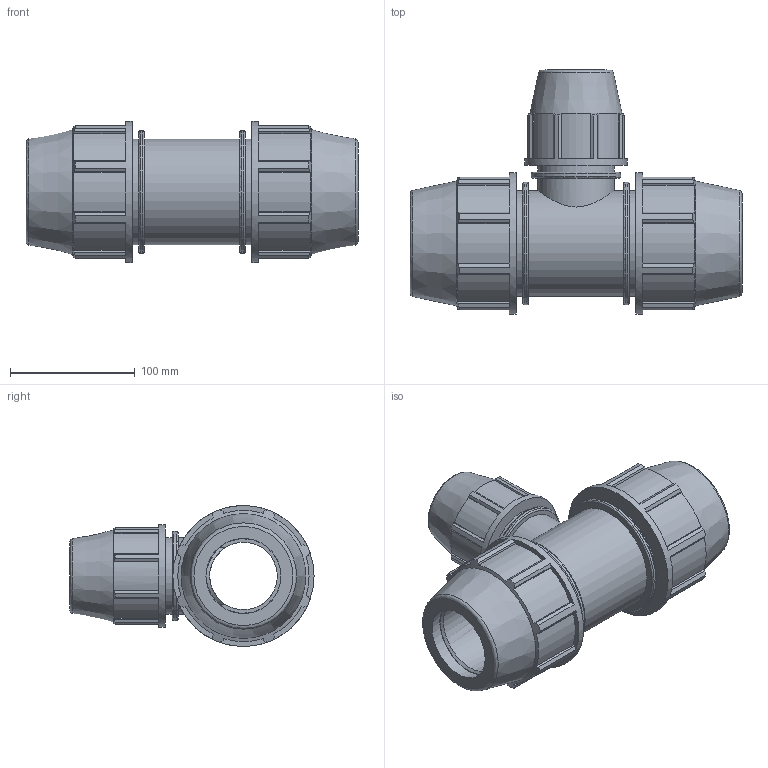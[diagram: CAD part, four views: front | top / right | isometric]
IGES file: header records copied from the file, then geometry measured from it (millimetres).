
Global section: file name: 0734M0020013.ipt; native system: Autodesk Inventor 2019; preprocessor: unknown; author: 12HКирилл; date: 20210826.124810; units: inch
Bounding box: 265.94 x 195.45 x 113.03 mm (x, y, z)
Volume: 1424866.9 mm3; surface area: 201027.3 mm2
Topology: 1 solids, 1 shells, 201 faces, 575 edges, 388 vertices
Faces by surface type: plane 138, cylinder 37, revolution 20, cone 6
Full cylindrical faces by diameter (mm): 61.531 x2, 71.377 x1, 82.042 x1, 84.772 x3, 98.336 x2, 113.03 x2
